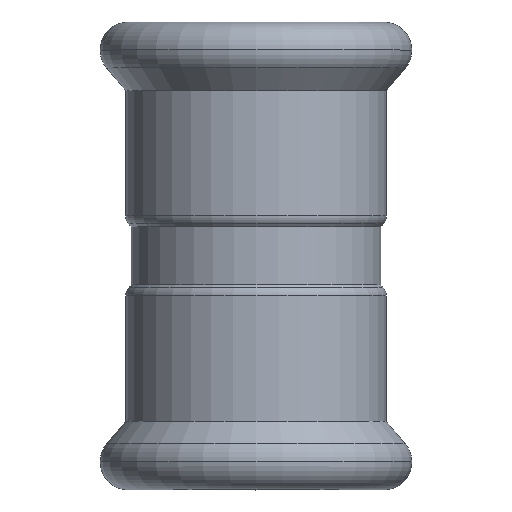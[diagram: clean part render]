
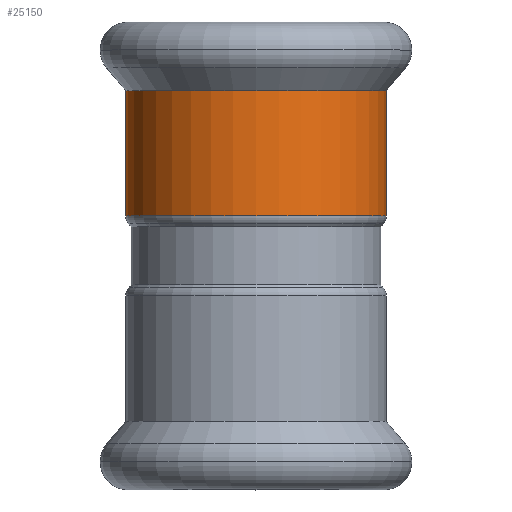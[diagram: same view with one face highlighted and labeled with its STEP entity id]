
A CAD part, top view. The second image highlights one B-rep face of the part: STEP entity #25150.
In plain terms, the highlighted cylindrical face has radius 15.65 mm (diameter 31.3 mm), a partial arc.
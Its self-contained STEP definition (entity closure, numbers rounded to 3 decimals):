
#11260=CARTESIAN_POINT('',(-419.956,44.386,0.));
#11270=VERTEX_POINT('',#11260);
#11370=CARTESIAN_POINT('',(-388.656,44.386,0.));
#11380=VERTEX_POINT('',#11370);
#11410=CARTESIAN_POINT('',(-404.306,44.386,0.));
#11420=DIRECTION('',(0.,-1.,0.));
#11430=DIRECTION('',(-1.,0.,0.));
#11440=AXIS2_PLACEMENT_3D('',#11410,#11420,#11430);
#11450=CIRCLE('',#11440,15.65);
#11510=CARTESIAN_POINT('',(-404.306,51.632,0.));
#11520=DIRECTION('',(0.,-1.,0.));
#11530=DIRECTION('',(-1.,0.,0.));
#11540=AXIS2_PLACEMENT_3D('',#11510,#11520,#11530);
#11550=CYLINDRICAL_SURFACE('',#11540,15.65);
#11560=CARTESIAN_POINT('',(-388.656,51.632,
0.));
#11570=DIRECTION('',(0.,-1.,0.));
#11580=VECTOR('',#11570,1.);
#11590=LINE('',#11560,#11580);
#11600=CARTESIAN_POINT('',(-388.656,59.438,
0.));
#11610=VERTEX_POINT('',#11600);
#11620=EDGE_CURVE('',#11610,#11380,#11590,.T.);
#11640=CARTESIAN_POINT('',(-404.306,59.438,0.));
#11650=DIRECTION('',(0.,1.,0.));
#11660=DIRECTION('',(-1.,0.,0.));
#11670=AXIS2_PLACEMENT_3D('',#11640,#11650,#11660);
#11680=CIRCLE('',#11670,15.65);
#11690=CARTESIAN_POINT('',(-419.956,59.438,0.));
#11700=VERTEX_POINT('',#11690);
#11730=CARTESIAN_POINT('',(-419.956,51.632,0.));
#11740=DIRECTION('',(0.,-1.,0.));
#11750=VECTOR('',#11740,1.);
#11760=LINE('',#11730,#11750);
#11770=EDGE_CURVE('',#11700,#11270,#11760,.T.);
#25070=EDGE_CURVE('',#11700,#11610,#11680,.T.);
#25080=ORIENTED_EDGE('',*,*,#25070,.F.);
#25090=ORIENTED_EDGE('',*,*,#11620,.F.);
#25100=EDGE_CURVE('',#11380,#11270,#11450,.T.);
#25110=ORIENTED_EDGE('',*,*,#25100,.F.);
#25120=ORIENTED_EDGE('',*,*,#11770,.T.);
#25130=EDGE_LOOP('',(#25120,#25110,#25090,#25080));
#25140=FACE_OUTER_BOUND('',#25130,.T.);
#25150=ADVANCED_FACE('',(#25140),#11550,.T.);
